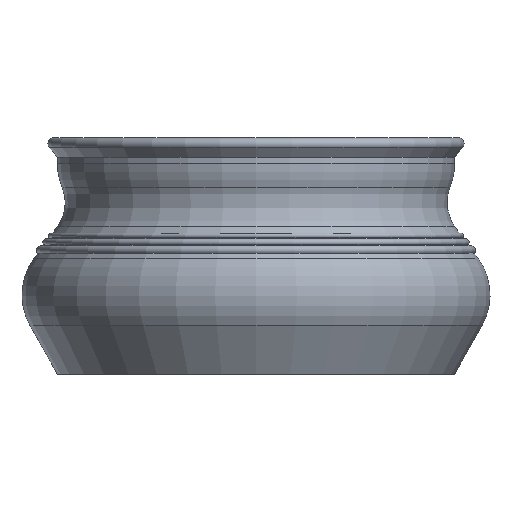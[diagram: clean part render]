
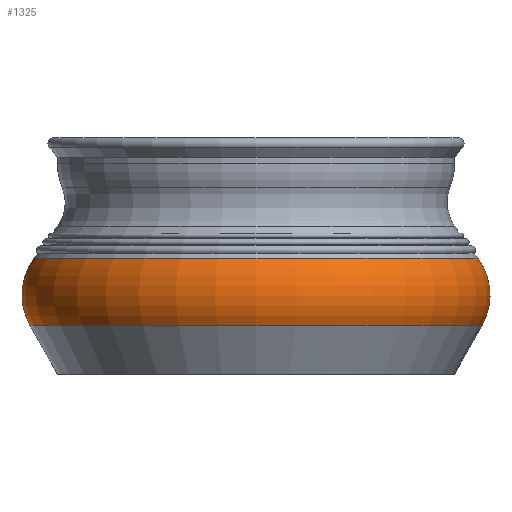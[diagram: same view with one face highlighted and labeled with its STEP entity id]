
A CAD part, front view. The second image highlights one B-rep face of the part: STEP entity #1325.
In plain terms, the highlighted toroidal (fillet/blend) face has major radius 145.641 mm and minor radius 52.359 mm.
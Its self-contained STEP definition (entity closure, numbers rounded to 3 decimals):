
#22=TOROIDAL_SURFACE('',#1505,145.641,52.359);
#166=FACE_OUTER_BOUND('',#284,.T.);
#284=EDGE_LOOP('',(#1208,#1209,#1210,#1211));
#526=CIRCLE('',#1467,191.263);
#549=CIRCLE('',#1506,187.836);
#550=CIRCLE('',#1507,52.359);
#653=VERTEX_POINT('',#2240);
#669=VERTEX_POINT('',#2303);
#818=EDGE_CURVE('',#653,#653,#526,.T.);
#849=EDGE_CURVE('',#669,#669,#549,.T.);
#850=EDGE_CURVE('',#669,#653,#550,.T.);
#1208=ORIENTED_EDGE('',*,*,#849,.F.);
#1209=ORIENTED_EDGE('',*,*,#850,.T.);
#1210=ORIENTED_EDGE('',*,*,#818,.T.);
#1211=ORIENTED_EDGE('',*,*,#850,.F.);
#1325=ADVANCED_FACE('',(#166),#22,.T.);
#1467=AXIS2_PLACEMENT_3D('',#2241,#1837,#1838);
#1505=AXIS2_PLACEMENT_3D('',#2302,#1921,#1922);
#1506=AXIS2_PLACEMENT_3D('',#2304,#1923,#1924);
#1507=AXIS2_PLACEMENT_3D('',#2305,#1925,#1926);
#1837=DIRECTION('center_axis',(0.,0.,1.));
#1838=DIRECTION('ref_axis',(1.,0.,0.));
#1921=DIRECTION('center_axis',(0.,0.,1.));
#1922=DIRECTION('ref_axis',(1.,0.,0.));
#1923=DIRECTION('center_axis',(0.,0.,1.));
#1924=DIRECTION('ref_axis',(1.,0.,0.));
#1925=DIRECTION('center_axis',(0.,-1.,0.));
#1926=DIRECTION('ref_axis',(-1.,0.,0.));
#2240=CARTESIAN_POINT('',(-191.263,0.,41.308));
#2241=CARTESIAN_POINT('Origin',(0.,0.,41.308));
#2302=CARTESIAN_POINT('Origin',(0.,0.,67.));
#2303=CARTESIAN_POINT('',(-187.836,0.,98.));
#2304=CARTESIAN_POINT('Origin',(0.,0.,98.));
#2305=CARTESIAN_POINT('Origin',(-145.641,0.,
67.));
